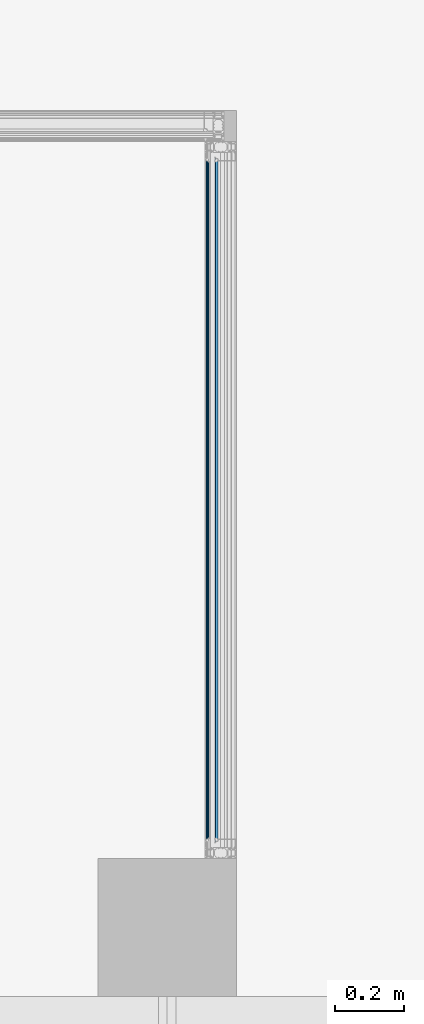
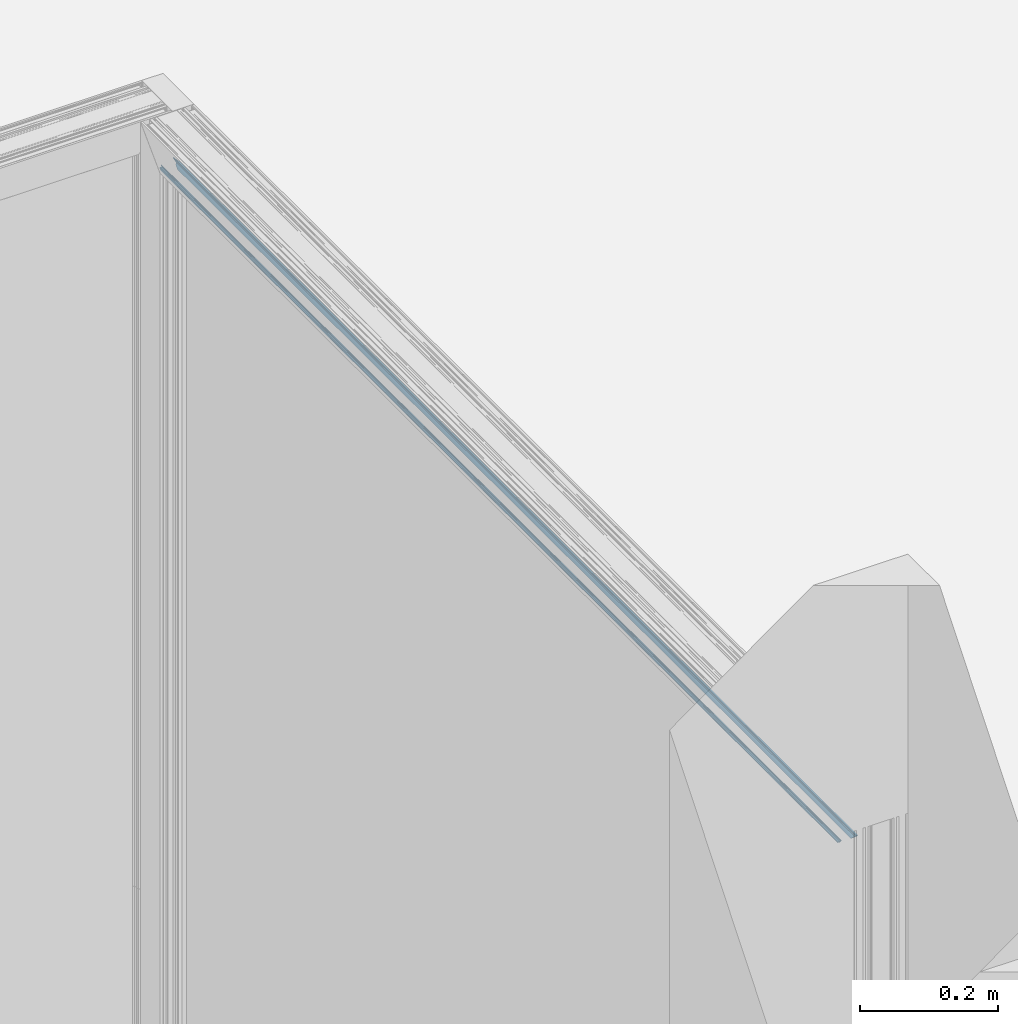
# One storey, part 24 of 69: 1 building element part, 2 elements without a shape of their own.
"""IFC2X3 building model written with IfcOpenShell, lengths in millimetres."""

from ifc_helpers import new_model, entity, si_unit, converted_unit, derived_unit, money_unit, direction, frame, origin_with_axes, place, context, subcontext, project, spatial, faceted_brep, material, type_object, element, aggregate, save


model = new_model("IFC2X3")

# Units and contexts
model_context = context("Model", 3, precision=0.01, world=origin_with_axes(), true_north=direction((0.0, 1.0)))
body_context = subcontext(model_context, "Body", "Model", "MODEL_VIEW")
ifc_project = project(units=[si_unit("LENGTHUNIT", "METRE", prefix="MILLI"), si_unit("AREAUNIT", "SQUARE_METRE"), si_unit("VOLUMEUNIT", "CUBIC_METRE"), converted_unit("PLANEANGLEUNIT", "DEGREE", entity("IfcPlaneAngleMeasure", 0.0174532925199), si_unit("PLANEANGLEUNIT", "RADIAN"), dimensions=[0, 0, 0, 0, 0, 0, 0]), si_unit("SOLIDANGLEUNIT", "STERADIAN"), money_unit("EUR"), converted_unit("TIMEUNIT", "Year", entity("IfcTimeMeasure", 31556926.0), si_unit("TIMEUNIT", "SECOND"), dimensions=[0, 0, 1, 0, 0, 0, 0]), si_unit("MASSUNIT", "GRAM", prefix="KILO"), si_unit("THERMODYNAMICTEMPERATUREUNIT", "DEGREE_CELSIUS"), si_unit("LUMINOUSINTENSITYUNIT", "LUMEN"), si_unit("ENERGYUNIT", "JOULE", prefix="MEGA"), derived_unit("THERMALCONDUCTANCEUNIT", [(si_unit("POWERUNIT", "WATT"), 1), (si_unit("LENGTHUNIT", "METRE"), -1), (si_unit("THERMODYNAMICTEMPERATUREUNIT", "KELVIN"), -1)]), derived_unit("SPECIFICHEATCAPACITYUNIT", [(si_unit("ENERGYUNIT", "JOULE"), 1), (si_unit("MASSUNIT", "GRAM", prefix="KILO"), -1), (si_unit("THERMODYNAMICTEMPERATUREUNIT", "KELVIN"), -1)]), derived_unit("MASSDENSITYUNIT", [(si_unit("MASSUNIT", "GRAM", prefix="KILO"), 1), (si_unit("VOLUMEUNIT", "CUBIC_METRE"), -1)])], contexts=[model_context])

# Site, building, storey
site_placement = place(None, origin_with_axes())
site = spatial("IfcSite", under=ifc_project, at=site_placement, Name="Puškini 31, Narva", CompositionType="ELEMENT")
building_placement = place(site_placement, origin_with_axes())
building = spatial("IfcBuilding", under=site, at=building_placement, Name="Narva Riigigümnaasium", CompositionType="ELEMENT")
storey_placement = place(building_placement, origin_with_axes())
storey = spatial("IfcBuildingStorey", under=building, at=storey_placement, Name="1.korrus 0.00", CompositionType="ELEMENT", Elevation=0.0)

# Curtain wall, member, building element part
curtain_wall_type = type_object("IfcCurtainWallType", Name="Curtain Wall Type", PredefinedType="NOTDEFINED")
curtain_wall_placement = place(storey_placement, frame((22285.3673645, 151537.502931, -7.26812883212e-05), z_axis=(0.0, 0.0, 1.0), x_axis=(1.0, 0.0, 0.0)))
curtain_wall = element("IfcCurtainWall", 1, at=curtain_wall_placement, inside=storey, type_object=curtain_wall_type, Name="G-KLF-01-2")
member_type = type_object("IfcMemberType", Name="61 x 45", PredefinedType="MULLION")
member_placement = place(curtain_wall_placement, frame((0.0, -1037.50292152, 3760.00008194), z_axis=(0.0, 1.0, 0.0), x_axis=(0.0, 0.0, 1.0)))
member = element("IfcMember", 2, at=member_placement, type_object=member_type, Name="G-SKLF-13-raam", ObjectType="MULLION")
aggregate(curtain_wall, [member])
ifc_material = material(Name="Membraan - Veekindel")
building_element_part_placement = place(member_placement, origin_with_axes())
building_element_part = element("IfcBuildingElementPart", 3, at=building_element_part_placement, material=ifc_material, Name="Membraan - Veekindel", context=body_context, shape_type="Brep", body=[
    faceted_brep([(-59.5800222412, -34.73794757, 59.5800222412), (-59.5800222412, -34.73794757, 2015.42582079), (-61.0413385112, -34.3890442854, 2013.96450452), (-61.0413385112, -34.3890442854, 61.0413385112), (-58.4755028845, -35.3628499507, 58.4755028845), (-58.4755028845, -35.3628499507, 2016.53034015), (-57.9693613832, -36.5265882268, 2017.03648165), (-57.7000324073, -39.5999584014, 2017.30581062), (-57.6464370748, -39.799971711, 2017.35940596), (-57.5000161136, -39.946391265, 2017.50582692), (-57.3000022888, -39.9999846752, 2017.70584074), (-57.3000022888, -39.1999494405, 2017.70584074), (-55.3000210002, -39.1999606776, 2019.70582203), (-55.2330337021, -38.9499606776, 2019.77280933), (-55.0500210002, -38.7669479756, 2019.95582203), (-54.8000210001, -38.6999606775, 2020.20582203), (-54.5500210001, -38.7669479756, 2020.45582203), (-54.3670082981, -38.9499606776, 2020.63883473), (-54.300021, -39.1999606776, 2020.70582203), (-54.300021, -40.4999366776, 2020.70582203), (-54.3402133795, -40.6499366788, 2020.66562965), (-54.4500210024, -40.7597443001, 2020.55582203), (-54.6000210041, -40.7999366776, 2020.40582203), (-54.7000173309, -40.7999366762, 2020.3058257), (-54.866675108, -40.850483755, 2020.13916792), (-54.9771753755, -40.9850924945, 2020.02866766), (-54.9942836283, -41.1584047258, 2020.0115594), (-54.9122350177, -41.3120206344, 2020.09360801), (-53.8716106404, -42.3533776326, 2021.13423239), (-53.7093558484, -42.4618547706, 2021.29648718), (-53.517932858, -42.4999486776, 2021.48791017), (-51.8818844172, -42.4999486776, 2023.12395861), (-51.6904310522, -42.4618421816, 2023.31541198), (-51.5281601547, -42.3533311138, 2023.47768288), (-50.4878083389, -41.3119729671, 2024.51803469), (-50.4057850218, -41.1583618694, 2024.60005801), (-50.4229059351, -40.9850671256, 2024.5829371), (-50.5334025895, -40.8504763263, 2024.47244044), (-50.7000457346, -40.7999366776, 2024.3057973), (-50.80004, -40.7999366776, 2024.20580303), (-50.95004, -40.7597442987, 2024.05580303), (-51.0598476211, -40.6499366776, 2023.94599541), (-51.10004, -40.4999366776, 2023.90580303), (-51.10004, -39.1999550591, 2023.90580303), (-51.0330541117, -38.9499546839, 2023.97278892), (-50.8500424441, -38.7669409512, 2024.15580059), (-50.6000428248, -38.699952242, 2024.40580021), (-50.3500424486, -38.7669381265, 2024.65580058), (-50.1670287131, -38.9499497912, 2024.83881432), (-50.10004, -39.1999494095, 2024.90580303), (-48.7206527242, -39.1999494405, 2026.28519031), (-48.7206527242, -38.0023809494, 2026.28519031), (-48.7876400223, -37.7523809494, 2026.21820301), (-48.9706527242, -37.5693682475, 2026.03519031), (-49.2206527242, -37.5023809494, 2025.78519031), (-50.3319753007, -37.5023809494, 2024.67386773), (-50.5819753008, -37.4353936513, 2024.42386773), (-50.7649880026, -37.2523809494, 2024.24085503), (-51.1691331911, -36.5523809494, 2023.83670984), (-51.352145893, -36.3693682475, 2023.65369714), (-51.602145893, -36.3023809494, 2023.40369714), (-53.8391557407, -36.3023809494, 2021.16668729), (-54.0891557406, -36.3693682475, 2020.91668729), (-54.2721684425, -36.5523809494, 2020.73367459), (-54.676313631, -37.2523809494, 2020.3295294), (-54.8593263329, -37.4353936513, 2020.1465167), (-55.1093263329, -37.5023809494, 2019.8965167), (-55.7607444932, -37.5023809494, 2019.24509854), (-55.9795989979, -37.4519392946, 2019.02624403), (-56.1542959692, -37.3107917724, 2018.85154706), (-56.2495873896, -37.1074172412, 2018.75625564), (-56.9567944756, -35.6067920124, 2018.04904856), (-58.2346494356, -34.5489145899, 2016.7711936), (-59.8409257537, -34.1343131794, 2015.16491728), (-60.7381535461, -33.9217644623, 2014.26768948), (-61.0108941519, -33.784859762, 2013.99494888), (-61.1423164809, -33.9681748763, 2013.86352655), (-61.1536677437, -34.1934467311, 2013.85217529), (-53.5000340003, -40.7999553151, 2021.50580903), (-53.433048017, -39.44993177, 2021.57279501), (-53.2500389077, -39.2669226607, 2021.75580412), (-53.0000438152, -39.1999366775, 2022.00579922), (-52.4000171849, -39.1999366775, 2022.60582585), (-52.1500220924, -39.2669226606, 2022.85582094), (-51.9670129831, -39.4499317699, 2023.03883005), (-51.9000269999, -39.6999268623, 2023.10581603), (-51.9000269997, -40.799955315, 2023.10581603), (-51.9670118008, -41.0499459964, 2023.03883123), (-52.150017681, -41.2329518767, 2022.85582535), (-52.4000083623, -41.299936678, 2022.60583467), (-53.0000526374, -41.299936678, 2022.00579039), (-53.2500433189, -41.2329518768, 2021.75579971), (-53.4330491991, -41.0499459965, 2021.57279383), (-61.1536677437, -34.1934467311, 61.1536677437), (-61.1423164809, -33.9681748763, 61.1423164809), (-61.0108941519, -33.784859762, 61.0108941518), (-60.7381535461, -33.9217644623, 60.7381535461), (-59.8409257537, -34.1343131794, 59.8409257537), (-58.2346494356, -34.5489145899, 58.2346494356), (-56.9567944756, -35.6067920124, 56.9567944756), (-56.2495873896, -37.1074172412, 56.2495873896), (-56.1542959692, -37.3107917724, 56.1542959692), (-55.9795989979, -37.4519392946, 55.9795989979), (-55.7607444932, -37.5023809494, 55.7607444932), (-55.1093263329, -37.5023809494, 55.1093263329), (-54.8593263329, -37.4353936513, 54.8593263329), (-54.676313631, -37.2523809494, 54.676313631), (-54.2721684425, -36.5523809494, 54.2721684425), (-54.0891557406, -36.3693682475, 54.0891557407), (-53.8391557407, -36.3023809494, 53.8391557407), (-51.602145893, -36.3023809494, 51.602145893), (-51.352145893, -36.3693682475, 51.352145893), (-51.1691331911, -36.5523809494, 51.1691331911), (-50.7649880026, -37.2523809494, 50.7649880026), (-50.5819753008, -37.4353936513, 50.5819753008), (-50.3319753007, -37.5023809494, 50.3319753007), (-49.2206527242, -37.5023809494, 49.2206527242), (-48.9706527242, -37.5693682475, 48.9706527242), (-48.7876400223, -37.7523809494, 48.7876400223), (-48.7206527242, -38.0023809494, 48.7206527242), (-48.7206527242, -39.1999494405, 48.7206527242), (-50.10004, -39.1999494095, 50.10004), (-50.1670287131, -38.9499497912, 50.1670287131), (-50.3500424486, -38.7669381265, 50.3500424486), (-50.6000428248, -38.699952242, 50.6000428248), (-50.8500424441, -38.7669409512, 50.8500424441), (-51.0330541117, -38.9499546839, 51.0330541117), (-51.10004, -39.1999550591, 51.10004), (-51.10004, -40.4999366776, 51.10004), (-51.0598476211, -40.6499366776, 51.0598476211), (-50.95004, -40.7597442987, 50.95004), (-50.80004, -40.7999366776, 50.80004), (-50.7000457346, -40.7999366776, 50.7000457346), (-50.5334025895, -40.8504763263, 50.5334025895), (-50.4229059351, -40.9850671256, 50.4229059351), (-50.4057850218, -41.1583618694, 50.4057850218), (-50.4878083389, -41.3119729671, 50.4878083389), (-51.5281601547, -42.3533311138, 51.5281601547), (-51.6904310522, -42.4618421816, 51.6904310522), (-51.8818844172, -42.4999486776, 51.8818844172), (-53.517932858, -42.4999486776, 53.517932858), (-53.7093558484, -42.4618547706, 53.7093558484), (-53.8716106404, -42.3533776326, 53.8716106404), (-54.9122350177, -41.3120206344, 54.9122350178), (-54.9942836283, -41.1584047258, 54.9942836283), (-54.9771753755, -40.9850924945, 54.9771753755), (-54.866675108, -40.850483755, 54.866675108), (-54.7000173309, -40.7999366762, 54.7000173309), (-54.6000210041, -40.7999366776, 54.6000210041), (-54.4500210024, -40.7597443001, 54.4500210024), (-54.3402133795, -40.6499366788, 54.3402133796), (-54.300021, -40.4999366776, 54.300021), (-54.300021, -39.1999606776, 54.300021), (-54.3670082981, -38.9499606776, 54.3670082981), (-54.5500210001, -38.7669479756, 54.550021), (-54.8000210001, -38.6999606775, 54.8000210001), (-55.0500210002, -38.7669479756, 55.0500210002), (-55.2330337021, -38.9499606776, 55.2330337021), (-55.3000210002, -39.1999606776, 55.3000210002), (-57.3000022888, -39.1999494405, 57.3000022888), (-57.3000022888, -39.9999846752, 57.3000022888), (-57.5000161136, -39.9463912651, 57.5000161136), (-57.6464370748, -39.7999717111, 57.6464370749), (-57.7000324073, -39.5999584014, 57.7000324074), (-57.9693613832, -36.5265882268, 57.9693613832), (-53.5000340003, -40.7999553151, 53.5000340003), (-53.4330491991, -41.0499459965, 53.4330491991), (-53.2500433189, -41.2329518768, 53.2500433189), (-53.0000526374, -41.299936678, 53.0000526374), (-52.4000083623, -41.299936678, 52.4000083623), (-52.150017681, -41.2329518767, 52.150017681), (-51.9670118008, -41.0499459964, 51.9670118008), (-51.9000269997, -40.799955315, 51.9000269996), (-51.9000269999, -39.6999268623, 51.9000269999), (-51.9670129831, -39.4499317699, 51.9670129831), (-52.1500220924, -39.2669226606, 52.1500220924), (-52.4000171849, -39.1999366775, 52.4000171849), (-53.0000438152, -39.1999366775, 53.0000438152), (-53.2500389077, -39.2669226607, 53.2500389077), (-53.433048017, -39.44993177, 53.433048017)], [[[0, 1, 2, 3]], [[4, 5, 1, 0]], [[2, 1, 5, 6, 7, 8, 9, 10, 11, 12, 13, 14, 15, 16, 17, 18, 19, 20, 21, 22, 23, 24, 25, 26, 27, 28, 29, 30, 31, 32, 33, 34, 35, 36, 37, 38, 39, 40, 41, 42, 43, 44, 45, 46, 47, 48, 49, 50, 51, 52, 53, 54, 55, 56, 57, 58, 59, 60, 61, 62, 63, 64, 65, 66, 67, 68, 69, 70, 71, 72, 73, 74, 75, 76, 77], [78, 79, 80, 81, 82, 83, 84, 85, 86, 87, 88, 89, 90, 91, 92]], [[3, 2, 77, 93]], [[3, 93, 94, 95, 96, 97, 98, 99, 100, 101, 102, 103, 104, 105, 106, 107, 108, 109, 110, 111, 112, 113, 114, 115, 116, 117, 118, 119, 120, 121, 122, 123, 124, 125, 126, 127, 128, 129, 130, 131, 132, 133, 134, 135, 136, 137, 138, 139, 140, 141, 142, 143, 144, 145, 146, 147, 148, 149, 150, 151, 152, 153, 154, 155, 156, 157, 158, 159, 160, 161, 162, 163, 164, 4, 0], [165, 166, 167, 168, 169, 170, 171, 172, 173, 174, 175, 176, 177, 178, 179]], [[164, 6, 5, 4]], [[163, 7, 6, 164]], [[162, 8, 7, 163]], [[161, 9, 8, 162]], [[160, 10, 9, 161]], [[159, 11, 10, 160]], [[158, 12, 11, 159]], [[157, 13, 12, 158]], [[156, 14, 13, 157]], [[155, 15, 14, 156]], [[154, 16, 15, 155]], [[153, 17, 16, 154]], [[152, 18, 17, 153]], [[151, 19, 18, 152]], [[150, 20, 19, 151]], [[149, 21, 20, 150]], [[148, 22, 21, 149]], [[147, 23, 22, 148]], [[146, 24, 23, 147]], [[145, 25, 24, 146]], [[144, 26, 25, 145]], [[143, 27, 26, 144]], [[142, 28, 27, 143]], [[141, 29, 28, 142]], [[140, 30, 29, 141]], [[139, 31, 30, 140]], [[138, 32, 31, 139]], [[137, 33, 32, 138]], [[136, 34, 33, 137]], [[135, 35, 34, 136]], [[134, 36, 35, 135]], [[133, 37, 36, 134]], [[132, 38, 37, 133]], [[131, 39, 38, 132]], [[130, 40, 39, 131]], [[129, 41, 40, 130]], [[128, 42, 41, 129]], [[127, 43, 42, 128]], [[126, 44, 43, 127]], [[125, 45, 44, 126]], [[124, 46, 45, 125]], [[123, 47, 46, 124]], [[122, 48, 47, 123]], [[121, 49, 48, 122]], [[120, 50, 49, 121]], [[119, 51, 50, 120]], [[118, 52, 51, 119]], [[117, 53, 52, 118]], [[116, 54, 53, 117]], [[115, 55, 54, 116]], [[114, 56, 55, 115]], [[113, 57, 56, 114]], [[112, 58, 57, 113]], [[111, 59, 58, 112]], [[110, 60, 59, 111]], [[109, 61, 60, 110]], [[108, 62, 61, 109]], [[107, 63, 62, 108]], [[106, 64, 63, 107]], [[105, 65, 64, 106]], [[104, 66, 65, 105]], [[103, 67, 66, 104]], [[102, 68, 67, 103]], [[101, 69, 68, 102]], [[100, 70, 69, 101]], [[99, 71, 70, 100]], [[98, 72, 71, 99]], [[97, 73, 72, 98]], [[96, 74, 73, 97]], [[95, 75, 74, 96]], [[94, 76, 75, 95]], [[93, 77, 76, 94]], [[179, 79, 78, 165]], [[178, 80, 79, 179]], [[177, 81, 80, 178]], [[176, 82, 81, 177]], [[175, 83, 82, 176]], [[174, 84, 83, 175]], [[173, 85, 84, 174]], [[172, 86, 85, 173]], [[171, 87, 86, 172]], [[170, 88, 87, 171]], [[169, 89, 88, 170]], [[168, 90, 89, 169]], [[167, 91, 90, 168]], [[166, 92, 91, 167]], [[165, 78, 92, 166]]]),
    faceted_brep([(-55.9926715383, -16.8063498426, 55.9926715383), (-55.9926715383, -16.8063498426, 2019.01317149), (-59.0307115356, -16.554149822, 2015.9751315), (-59.0307115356, -16.554149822, 59.0307115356), (-53.7899070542, -16.6230039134, 53.7899070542), (-53.7899070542, -16.6230039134, 2021.21593598), (-53.1225200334, -16.3483062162, 2021.883323), (-51.5205025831, -15.0099586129, 2023.48534045), (-51.3011765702, -14.8998814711, 2023.70466646), (-51.0558924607, -14.9074036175, 2023.94995057), (-50.8437237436, -15.0307134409, 2024.16211929), (-50.5536994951, -15.2121179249, 2024.45214354), (-46.298307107, -16.7340705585, 2028.70753592), (-45.950966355, -16.7718696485, 2029.05487668), (-45.6241929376, -16.6482027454, 2029.38165009), (-45.3889077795, -16.3899097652, 2029.61693525), (-45.3195226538, -16.2152275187, 2029.68632038), (-45.3418968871, -15.7688623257, 2029.66394614), (-45.6142070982, -15.4144760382, 2029.39163593), (-51.8169217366, -8.74599822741, 2023.18892129), (-51.938943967, -8.6326446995, 2023.06689906), (-52.1026310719, -8.60190419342, 2022.90321196), (-52.2574645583, -8.66326410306, 2022.74837847), (-52.3556584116, -8.79778701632, 2022.65018462), (-52.7761212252, -9.95299910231, 2022.22972181), (-52.8859560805, -10.0961386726, 2022.11988695), (-53.0580290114, -10.1503930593, 2021.94781402), (-55.1123574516, -10.1503930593, 2019.89348558), (-55.2731258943, -10.1036784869, 2019.73271714), (-55.3838261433, -9.9780831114, 2019.62201689), (-55.4099827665, -9.81272116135, 2019.59586026), (-55.2940485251, -8.85237785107, 2019.71179451), (-55.3307332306, -8.72753828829, 2019.6751098), (-55.4168250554, -8.62997353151, 2019.58901798), (-55.5361285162, -8.57803733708, 2019.46971451), (-56.9361285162, -8.30590490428, 2018.06971451), (-57.0661058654, -8.3093438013, 2017.93973717), (-57.1824204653, -8.36745448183, 2017.82342257), (-57.2632233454, -8.46932121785, 2017.74261969), (-57.5418652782, -10.0035930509, 2017.46397775), (-59.3405112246, -15.0012955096, 2015.66533181), (-59.5001582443, -15.5494067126, 2015.50568479), (-59.3884652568, -16.1092618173, 2015.61737777), (-59.3884652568, -16.1092618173, 59.3884652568), (-59.5001582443, -15.5494067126, 59.5001582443), (-59.3405112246, -15.0012955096, 59.3405112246), (-57.5418652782, -10.0035930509, 57.5418652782), (-57.2632233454, -8.46932121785, 57.2632233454), (-57.1824204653, -8.36745448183, 57.1824204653), (-57.0661058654, -8.3093438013, 57.0661058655), (-56.9361285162, -8.30590490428, 56.9361285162), (-55.5361285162, -8.57803733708, 55.5361285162), (-55.4168250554, -8.62997353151, 55.4168250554), (-55.3307332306, -8.72753828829, 55.3307332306), (-55.2940485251, -8.85237785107, 55.2940485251), (-55.4099827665, -9.81272116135, 55.4099827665), (-55.3838261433, -9.9780831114, 55.3838261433), (-55.2731258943, -10.1036784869, 55.2731258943), (-55.1123574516, -10.1503930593, 55.1123574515), (-53.0580290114, -10.1503930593, 53.0580290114), (-52.8859560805, -10.0961386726, 52.8859560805), (-52.7761212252, -9.95299910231, 52.7761212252), (-52.3556584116, -8.79778701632, 52.3556584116), (-52.2574645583, -8.66326410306, 52.2574645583), (-52.1026310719, -8.60190419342, 52.1026310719), (-51.938943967, -8.6326446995, 51.938943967), (-51.8169217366, -8.74599822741, 51.8169217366), (-45.6142070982, -15.4144760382, 45.6142070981), (-45.3418968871, -15.7688623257, 45.3418968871), (-45.3195226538, -16.2152275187, 45.3195226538), (-45.3889077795, -16.3899097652, 45.3889077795), (-45.6241929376, -16.6482027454, 45.6241929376), (-45.950966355, -16.7718696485, 45.950966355), (-46.298307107, -16.7340705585, 46.298307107), (-50.5536994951, -15.2121179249, 50.5536994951), (-50.8437237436, -15.0307134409, 50.8437237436), (-51.0558924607, -14.9074036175, 51.0558924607), (-51.3011765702, -14.8998814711, 51.3011765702), (-51.5205025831, -15.0099586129, 51.5205025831), (-53.1225200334, -16.3483062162, 53.1225200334)], [[[0, 1, 2, 3]], [[4, 5, 1, 0]], [[2, 1, 5, 6, 7, 8, 9, 10, 11, 12, 13, 14, 15, 16, 17, 18, 19, 20, 21, 22, 23, 24, 25, 26, 27, 28, 29, 30, 31, 32, 33, 34, 35, 36, 37, 38, 39, 40, 41, 42]], [[3, 2, 42, 43]], [[3, 43, 44, 45, 46, 47, 48, 49, 50, 51, 52, 53, 54, 55, 56, 57, 58, 59, 60, 61, 62, 63, 64, 65, 66, 67, 68, 69, 70, 71, 72, 73, 74, 75, 76, 77, 78, 79, 4, 0]], [[79, 6, 5, 4]], [[78, 7, 6, 79]], [[77, 8, 7, 78]], [[76, 9, 8, 77]], [[75, 10, 9, 76]], [[74, 11, 10, 75]], [[73, 12, 11, 74]], [[72, 13, 12, 73]], [[71, 14, 13, 72]], [[70, 15, 14, 71]], [[69, 16, 15, 70]], [[68, 17, 16, 69]], [[67, 18, 17, 68]], [[66, 19, 18, 67]], [[65, 20, 19, 66]], [[64, 21, 20, 65]], [[63, 22, 21, 64]], [[62, 23, 22, 63]], [[61, 24, 23, 62]], [[60, 25, 24, 61]], [[59, 26, 25, 60]], [[58, 27, 26, 59]], [[57, 28, 27, 58]], [[56, 29, 28, 57]], [[55, 30, 29, 56]], [[54, 31, 30, 55]], [[53, 32, 31, 54]], [[52, 33, 32, 53]], [[51, 34, 33, 52]], [[50, 35, 34, 51]], [[49, 36, 35, 50]], [[48, 37, 36, 49]], [[47, 38, 37, 48]], [[46, 39, 38, 47]], [[45, 40, 39, 46]], [[44, 41, 40, 45]], [[43, 42, 41, 44]]]),
])
aggregate(member, [building_element_part])

save(model, "model.ifc")
